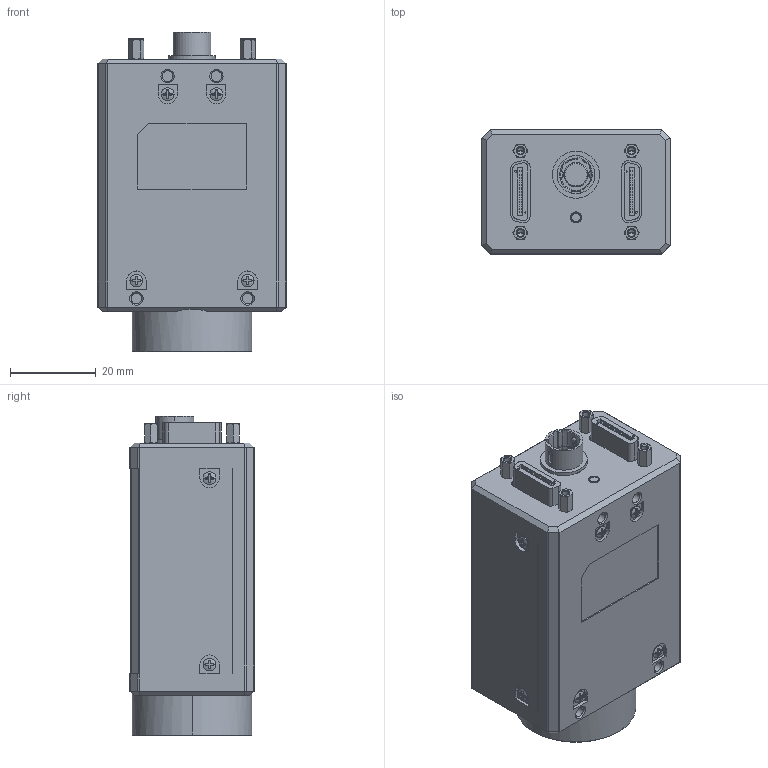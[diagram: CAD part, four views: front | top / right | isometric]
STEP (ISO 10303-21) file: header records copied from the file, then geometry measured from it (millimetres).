
FILE_DESCRIPTION((''),'2;1');
FILE_NAME('500W-CAM-CL_ASM_ASM','2019-01-28T14:18:15',('wangyijun6'),(''),'CREO PARAMETRIC BY PTC INC, 2017260','CREO PARAMETRIC BY PTC INC, 2017260','');
FILE_SCHEMA(('CONFIG_CONTROL_DESIGN'));
Products named in the file (1): 500W-CAM-CL_ASM_ASM
Bounding box: 44 x 29 x 74.78 mm (x, y, z)
Volume: 72744 mm3; surface area: 24119.7 mm2
Topology: 1 solids, 21 shells, 1631 faces, 4565 edges, 2986 vertices
Faces by surface type: plane 729, cylinder 315, cone 271, torus 156, bspline 138, sphere 20, extrusion 2
Entity records: 60393 total; most frequent: CARTESIAN_POINT 18229, ORIENTED_EDGE 9074, DIRECTION 8790, EDGE_CURVE 4537, AXIS2_PLACEMENT_3D 3266, VERTEX_POINT 2986, VECTOR 2258, LINE 2256
